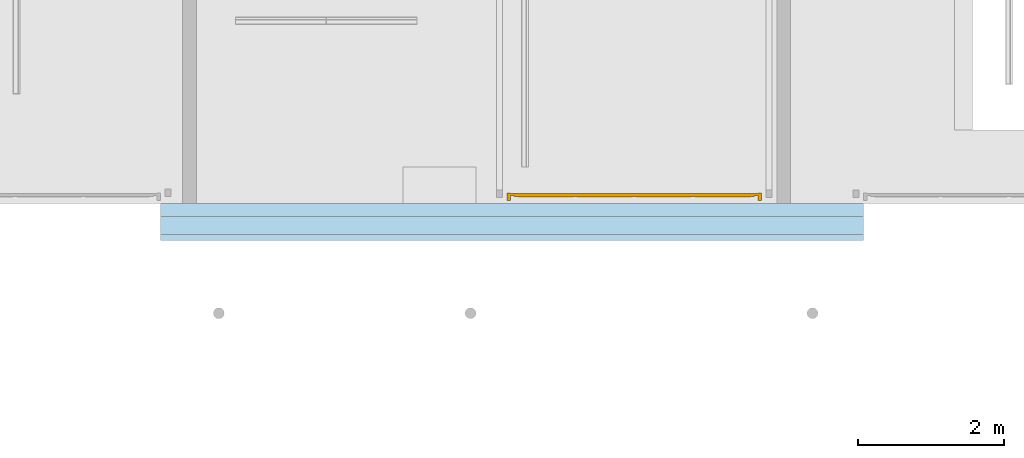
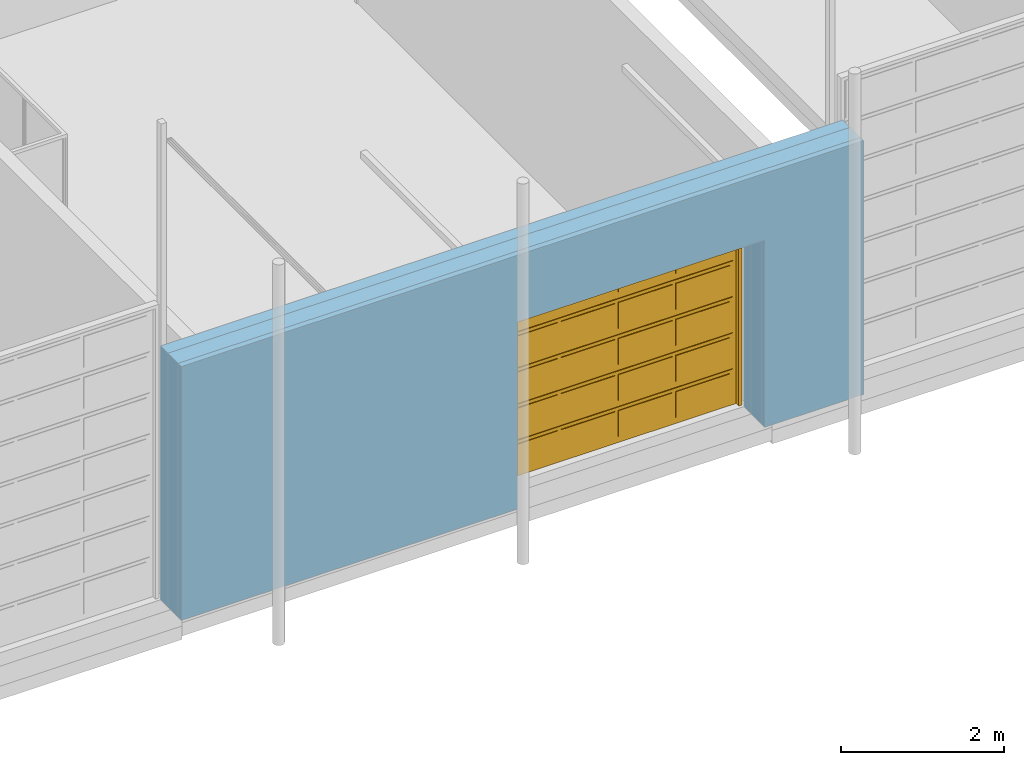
# One storey, part 50 of 112: 1 door, 1 opening, 1 element without a shape of its own, plus 3 elements that do not belong to this part.
"""IFC2X3 building model written with IfcOpenShell, lengths in millimetres."""

from ifc_helpers import new_model, entity, si_unit, converted_unit, derived_unit, money_unit, direction, frame, origin_with_axes, origin_2d_with_axis, place, context, subcontext, project, spatial, polyline, rectangle, outline, extrude, faceted_brep, material, type_object, element, fill, aggregate, save


model = new_model("IFC2X3")

# Units and contexts
model_context = context("Model", 3, precision=0.01, world=origin_with_axes(), true_north=direction((0.0, 1.0)))
body_context = subcontext(model_context, "Body", "Model", "MODEL_VIEW")
ifc_project = project(units=[si_unit("LENGTHUNIT", "METRE", prefix="MILLI"), si_unit("AREAUNIT", "SQUARE_METRE"), si_unit("VOLUMEUNIT", "CUBIC_METRE"), converted_unit("PLANEANGLEUNIT", "DEGREE", entity("IfcPlaneAngleMeasure", 0.0174532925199), si_unit("PLANEANGLEUNIT", "RADIAN"), dimensions=[0, 0, 0, 0, 0, 0, 0]), si_unit("SOLIDANGLEUNIT", "STERADIAN"), money_unit("EUR"), converted_unit("TIMEUNIT", "Year", entity("IfcTimeMeasure", 31556926.0), si_unit("TIMEUNIT", "SECOND"), dimensions=[0, 0, 1, 0, 0, 0, 0]), si_unit("MASSUNIT", "GRAM", prefix="KILO"), si_unit("THERMODYNAMICTEMPERATUREUNIT", "DEGREE_CELSIUS"), si_unit("LUMINOUSINTENSITYUNIT", "LUMEN"), si_unit("ENERGYUNIT", "JOULE", prefix="MEGA"), derived_unit("THERMALCONDUCTANCEUNIT", [(si_unit("POWERUNIT", "WATT"), 1), (si_unit("LENGTHUNIT", "METRE"), -1), (si_unit("THERMODYNAMICTEMPERATUREUNIT", "KELVIN"), -1)]), derived_unit("SPECIFICHEATCAPACITYUNIT", [(si_unit("ENERGYUNIT", "JOULE"), 1), (si_unit("MASSUNIT", "GRAM", prefix="KILO"), -1), (si_unit("THERMODYNAMICTEMPERATUREUNIT", "KELVIN"), -1)]), derived_unit("MASSDENSITYUNIT", [(si_unit("MASSUNIT", "GRAM", prefix="KILO"), 1), (si_unit("VOLUMEUNIT", "CUBIC_METRE"), -1)])], contexts=[model_context])

# Site, building, storey
site_placement = place(None, origin_with_axes())
site = spatial("IfcSite", under=ifc_project, at=site_placement, Name="Politse- ja Piirivalveameti ning Päästeameti ühishoone", CompositionType="ELEMENT")
building_placement = place(site_placement, origin_with_axes())
building = spatial("IfcBuilding", under=site, at=building_placement, Name="Politse- ja Piirivalveameti ning Päästeameti ühishoone", CompositionType="ELEMENT")
storey_placement = place(building_placement, origin_with_axes())
storey = spatial("IfcBuildingStorey", under=building, at=storey_placement, Name="Esimene korrus", CompositionType="ELEMENT", Elevation=0.0)

# Door
door_style = type_object("IfcDoorStyle", Name="Vertical Sliding Garage Door 23", ConstructionType="NOTDEFINED", OperationType="ROLLINGUP", ParameterTakesPrecedence=False, Sizeable=False)
wall_placement = place(storey_placement, frame((18099.6782559, 0.0, 0.0), z_axis=(0.0, 0.0, 1.0), x_axis=(1.0, 0.0, 0.0)))
opening_placement = place(wall_placement, frame((6510.24944031, 0.0, 0.0), z_axis=(0.0, 0.0, 1.0), x_axis=(1.0, 0.0, 0.0)))
door_placement = place(opening_placement, frame((-1750.0, 0.0, 0.0), z_axis=(0.0, 0.0, 1.0), x_axis=(1.0, 0.0, 0.0)))
door = element("IfcDoor", 1, at=door_placement, inside=storey, type_object=door_style, Name="TV-01", ObjectType="DOOR", OverallHeight=2800.0, OverallWidth=3500.0, context=body_context, shape_type="Brep", body=[
    faceted_brep([(0.0, 140.0, 0.0), (50.0, 140.0, 0.0), (50.0, 40.0, 0.0), (0.0, 40.0, 0.0), (0.0, 140.0, 2750.0), (50.0, 140.0, 2750.0), (50.0, 40.0, 2750.0), (0.0, 40.0, 2750.0)], [[[0, 1, 2, 3]], [[0, 4, 5, 1]], [[1, 5, 6, 2]], [[3, 2, 6, 7]], [[4, 0, 3, 7]], [[5, 4, 7, 6]]]),
    faceted_brep([(3500.0, 140.0, 0.0), (3500.0, 140.0, 2750.0), (3500.0, 40.0, 2750.0), (3500.0, 40.0, 0.0), (3450.0, 140.0, 0.0), (3450.0, 140.0, 2750.0), (3450.0, 40.0, 2750.0), (3450.0, 40.0, 0.0)], [[[0, 1, 2, 3]], [[0, 4, 5, 1]], [[1, 5, 6, 2]], [[3, 2, 6, 7]], [[4, 0, 3, 7]], [[5, 4, 7, 6]]]),
    faceted_brep([(0.0, 140.0, 2800.0), (0.0, 140.0, 2750.0), (0.0, 40.0, 2750.0), (0.0, 40.0, 2800.0), (3500.0, 140.0, 2800.0), (3500.0, 140.0, 2750.0), (3450.0, 140.0, 2750.0), (50.0, 140.0, 2750.0), (50.0, 40.0, 2750.0), (3450.0, 40.0, 2750.0), (3500.0, 40.0, 2750.0), (3500.0, 40.0, 2800.0)], [[[0, 1, 2, 3]], [[0, 4, 5, 6, 7, 1]], [[1, 7, 8, 2]], [[3, 2, 8, 9, 10, 11]], [[4, 0, 3, 11]], [[5, 4, 11, 10]], [[6, 5, 10, 9]], [[7, 6, 9, 8]]]),
    faceted_brep([(3450.0, 134.5, 0.0), (3450.0, 104.5, 0.0), (50.0, 104.5, 0.0), (50.0, 134.5, 0.0), (3450.0, 134.5, 2750.0), (3450.0, 104.5, 2750.0), (50.0, 104.5, 2750.0), (50.0, 134.5, 2750.0)], [[[0, 1, 2, 3]], [[4, 5, 1, 0]], [[1, 5, 6, 2]], [[3, 2, 6, 7]], [[0, 3, 7, 4]], [[7, 6, 5, 4]]]),
    faceted_brep([(100.0, 104.5, 50.0), (100.0, 104.5, 540.0), (3400.0, 104.5, 540.0), (3400.0, 104.5, 50.0), (100.0, 94.5, 50.0), (100.0, 94.5, 540.0), (3400.0, 94.5, 540.0), (3400.0, 94.5, 50.0)], [[[0, 1, 2, 3]], [[0, 4, 5, 1]], [[1, 5, 6, 2]], [[2, 6, 7, 3]], [[3, 7, 4, 0]], [[7, 6, 5, 4]]]),
    faceted_brep([(2587.5, 94.5, 100.0), (2587.5, 94.5, 490.0), (3350.0, 94.5, 490.0), (3350.0, 94.5, 100.0), (2587.5, 84.5, 100.0), (2587.5, 84.5, 490.0), (3350.0, 84.5, 490.0), (3350.0, 84.5, 100.0)], [[[0, 1, 2, 3]], [[0, 4, 5, 1]], [[1, 5, 6, 2]], [[2, 6, 7, 3]], [[3, 7, 4, 0]], [[7, 6, 5, 4]]]),
    faceted_brep([(1775.0, 94.5, 100.0), (1775.0, 94.5, 490.0), (2537.5, 94.5, 490.0), (2537.5, 94.5, 100.0), (1775.0, 84.5, 100.0), (1775.0, 84.5, 490.0), (2537.5, 84.5, 490.0), (2537.5, 84.5, 100.0)], [[[0, 1, 2, 3]], [[0, 4, 5, 1]], [[1, 5, 6, 2]], [[2, 6, 7, 3]], [[3, 7, 4, 0]], [[7, 6, 5, 4]]]),
    faceted_brep([(962.5, 94.5, 100.0), (962.5, 94.5, 490.0), (1725.0, 94.5, 490.0), (1725.0, 94.5, 100.0), (962.5, 84.5, 100.0), (962.5, 84.5, 490.0), (1725.0, 84.5, 490.0), (1725.0, 84.5, 100.0)], [[[0, 1, 2, 3]], [[0, 4, 5, 1]], [[1, 5, 6, 2]], [[2, 6, 7, 3]], [[3, 7, 4, 0]], [[7, 6, 5, 4]]]),
    faceted_brep([(150.0, 94.5, 100.0), (150.0, 94.5, 490.0), (912.5, 94.5, 490.0), (912.5, 94.5, 100.0), (150.0, 84.5, 100.0), (150.0, 84.5, 490.0), (912.5, 84.5, 490.0), (912.5, 84.5, 100.0)], [[[0, 1, 2, 3]], [[0, 4, 5, 1]], [[1, 5, 6, 2]], [[2, 6, 7, 3]], [[3, 7, 4, 0]], [[7, 6, 5, 4]]]),
    faceted_brep([(100.0, 104.5, 590.0), (100.0, 104.5, 1080.0), (3400.0, 104.5, 1080.0), (3400.0, 104.5, 590.0), (100.0, 94.5, 590.0), (100.0, 94.5, 1080.0), (3400.0, 94.5, 1080.0), (3400.0, 94.5, 590.0)], [[[0, 1, 2, 3]], [[0, 4, 5, 1]], [[1, 5, 6, 2]], [[2, 6, 7, 3]], [[3, 7, 4, 0]], [[7, 6, 5, 4]]]),
    faceted_brep([(2587.5, 94.5, 640.0), (2587.5, 94.5, 1030.0), (3350.0, 94.5, 1030.0), (3350.0, 94.5, 640.0), (2587.5, 84.5, 640.0), (2587.5, 84.5, 1030.0), (3350.0, 84.5, 1030.0), (3350.0, 84.5, 640.0)], [[[0, 1, 2, 3]], [[0, 4, 5, 1]], [[1, 5, 6, 2]], [[2, 6, 7, 3]], [[3, 7, 4, 0]], [[7, 6, 5, 4]]]),
    faceted_brep([(1775.0, 94.5, 640.0), (1775.0, 94.5, 1030.0), (2537.5, 94.5, 1030.0), (2537.5, 94.5, 640.0), (1775.0, 84.5, 640.0), (1775.0, 84.5, 1030.0), (2537.5, 84.5, 1030.0), (2537.5, 84.5, 640.0)], [[[0, 1, 2, 3]], [[0, 4, 5, 1]], [[1, 5, 6, 2]], [[2, 6, 7, 3]], [[3, 7, 4, 0]], [[7, 6, 5, 4]]]),
    faceted_brep([(962.5, 94.5, 640.0), (962.5, 94.5, 1030.0), (1725.0, 94.5, 1030.0), (1725.0, 94.5, 640.0), (962.5, 84.5, 640.0), (962.5, 84.5, 1030.0), (1725.0, 84.5, 1030.0), (1725.0, 84.5, 640.0)], [[[0, 1, 2, 3]], [[0, 4, 5, 1]], [[1, 5, 6, 2]], [[2, 6, 7, 3]], [[3, 7, 4, 0]], [[7, 6, 5, 4]]]),
    faceted_brep([(150.0, 94.5, 640.0), (150.0, 94.5, 1030.0), (912.5, 94.5, 1030.0), (912.5, 94.5, 640.0), (150.0, 84.5, 640.0), (150.0, 84.5, 1030.0), (912.5, 84.5, 1030.0), (912.5, 84.5, 640.0)], [[[0, 1, 2, 3]], [[0, 4, 5, 1]], [[1, 5, 6, 2]], [[2, 6, 7, 3]], [[3, 7, 4, 0]], [[7, 6, 5, 4]]]),
    faceted_brep([(100.0, 104.5, 1130.0), (100.0, 104.5, 1620.0), (3400.0, 104.5, 1620.0), (3400.0, 104.5, 1130.0), (100.0, 94.5, 1130.0), (100.0, 94.5, 1620.0), (3400.0, 94.5, 1620.0), (3400.0, 94.5, 1130.0)], [[[0, 1, 2, 3]], [[0, 4, 5, 1]], [[1, 5, 6, 2]], [[2, 6, 7, 3]], [[3, 7, 4, 0]], [[7, 6, 5, 4]]]),
    faceted_brep([(2587.5, 94.5, 1180.0), (2587.5, 94.5, 1570.0), (3350.0, 94.5, 1570.0), (3350.0, 94.5, 1180.0), (2587.5, 84.5, 1180.0), (2587.5, 84.5, 1570.0), (3350.0, 84.5, 1570.0), (3350.0, 84.5, 1180.0)], [[[0, 1, 2, 3]], [[0, 4, 5, 1]], [[1, 5, 6, 2]], [[2, 6, 7, 3]], [[3, 7, 4, 0]], [[7, 6, 5, 4]]]),
    faceted_brep([(1775.0, 94.5, 1180.0), (1775.0, 94.5, 1570.0), (2537.5, 94.5, 1570.0), (2537.5, 94.5, 1180.0), (1775.0, 84.5, 1180.0), (1775.0, 84.5, 1570.0), (2537.5, 84.5, 1570.0), (2537.5, 84.5, 1180.0)], [[[0, 1, 2, 3]], [[0, 4, 5, 1]], [[1, 5, 6, 2]], [[2, 6, 7, 3]], [[3, 7, 4, 0]], [[7, 6, 5, 4]]]),
    faceted_brep([(962.5, 94.5, 1180.0), (962.5, 94.5, 1570.0), (1725.0, 94.5, 1570.0), (1725.0, 94.5, 1180.0), (962.5, 84.5, 1180.0), (962.5, 84.5, 1570.0), (1725.0, 84.5, 1570.0), (1725.0, 84.5, 1180.0)], [[[0, 1, 2, 3]], [[0, 4, 5, 1]], [[1, 5, 6, 2]], [[2, 6, 7, 3]], [[3, 7, 4, 0]], [[7, 6, 5, 4]]]),
    faceted_brep([(150.0, 94.5, 1180.0), (150.0, 94.5, 1570.0), (912.5, 94.5, 1570.0), (912.5, 94.5, 1180.0), (150.0, 84.5, 1180.0), (150.0, 84.5, 1570.0), (912.5, 84.5, 1570.0), (912.5, 84.5, 1180.0)], [[[0, 1, 2, 3]], [[0, 4, 5, 1]], [[1, 5, 6, 2]], [[2, 6, 7, 3]], [[3, 7, 4, 0]], [[7, 6, 5, 4]]]),
    faceted_brep([(100.0, 104.5, 1670.0), (100.0, 104.5, 2160.0), (3400.0, 104.5, 2160.0), (3400.0, 104.5, 1670.0), (100.0, 94.5, 1670.0), (100.0, 94.5, 2160.0), (3400.0, 94.5, 2160.0), (3400.0, 94.5, 1670.0)], [[[0, 1, 2, 3]], [[0, 4, 5, 1]], [[1, 5, 6, 2]], [[2, 6, 7, 3]], [[3, 7, 4, 0]], [[7, 6, 5, 4]]]),
    faceted_brep([(2587.5, 94.5, 1720.0), (2587.5, 94.5, 2110.0), (3350.0, 94.5, 2110.0), (3350.0, 94.5, 1720.0), (2587.5, 84.5, 1720.0), (2587.5, 84.5, 2110.0), (3350.0, 84.5, 2110.0), (3350.0, 84.5, 1720.0)], [[[0, 1, 2, 3]], [[0, 4, 5, 1]], [[1, 5, 6, 2]], [[2, 6, 7, 3]], [[3, 7, 4, 0]], [[7, 6, 5, 4]]]),
    faceted_brep([(1775.0, 94.5, 1720.0), (1775.0, 94.5, 2110.0), (2537.5, 94.5, 2110.0), (2537.5, 94.5, 1720.0), (1775.0, 84.5, 1720.0), (1775.0, 84.5, 2110.0), (2537.5, 84.5, 2110.0), (2537.5, 84.5, 1720.0)], [[[0, 1, 2, 3]], [[0, 4, 5, 1]], [[1, 5, 6, 2]], [[2, 6, 7, 3]], [[3, 7, 4, 0]], [[7, 6, 5, 4]]]),
    faceted_brep([(962.5, 94.5, 1720.0), (962.5, 94.5, 2110.0), (1725.0, 94.5, 2110.0), (1725.0, 94.5, 1720.0), (962.5, 84.5, 1720.0), (962.5, 84.5, 2110.0), (1725.0, 84.5, 2110.0), (1725.0, 84.5, 1720.0)], [[[0, 1, 2, 3]], [[0, 4, 5, 1]], [[1, 5, 6, 2]], [[2, 6, 7, 3]], [[3, 7, 4, 0]], [[7, 6, 5, 4]]]),
    faceted_brep([(150.0, 94.5, 1720.0), (150.0, 94.5, 2110.0), (912.5, 94.5, 2110.0), (912.5, 94.5, 1720.0), (150.0, 84.5, 1720.0), (150.0, 84.5, 2110.0), (912.5, 84.5, 2110.0), (912.5, 84.5, 1720.0)], [[[0, 1, 2, 3]], [[0, 4, 5, 1]], [[1, 5, 6, 2]], [[2, 6, 7, 3]], [[3, 7, 4, 0]], [[7, 6, 5, 4]]]),
    faceted_brep([(100.0, 104.5, 2210.0), (100.0, 104.5, 2700.0), (3400.0, 104.5, 2700.0), (3400.0, 104.5, 2210.0), (100.0, 94.5, 2210.0), (100.0, 94.5, 2700.0), (3400.0, 94.5, 2700.0), (3400.0, 94.5, 2210.0)], [[[0, 1, 2, 3]], [[0, 4, 5, 1]], [[1, 5, 6, 2]], [[2, 6, 7, 3]], [[3, 7, 4, 0]], [[7, 6, 5, 4]]]),
    faceted_brep([(2587.5, 94.5, 2260.0), (2587.5, 94.5, 2650.0), (3350.0, 94.5, 2650.0), (3350.0, 94.5, 2260.0), (2587.5, 84.5, 2260.0), (2587.5, 84.5, 2650.0), (3350.0, 84.5, 2650.0), (3350.0, 84.5, 2260.0)], [[[0, 1, 2, 3]], [[0, 4, 5, 1]], [[1, 5, 6, 2]], [[2, 6, 7, 3]], [[3, 7, 4, 0]], [[7, 6, 5, 4]]]),
    faceted_brep([(1775.0, 94.5, 2260.0), (1775.0, 94.5, 2650.0), (2537.5, 94.5, 2650.0), (2537.5, 94.5, 2260.0), (1775.0, 84.5, 2260.0), (1775.0, 84.5, 2650.0), (2537.5, 84.5, 2650.0), (2537.5, 84.5, 2260.0)], [[[0, 1, 2, 3]], [[0, 4, 5, 1]], [[1, 5, 6, 2]], [[2, 6, 7, 3]], [[3, 7, 4, 0]], [[7, 6, 5, 4]]]),
    faceted_brep([(962.5, 94.5, 2260.0), (962.5, 94.5, 2650.0), (1725.0, 94.5, 2650.0), (1725.0, 94.5, 2260.0), (962.5, 84.5, 2260.0), (962.5, 84.5, 2650.0), (1725.0, 84.5, 2650.0), (1725.0, 84.5, 2260.0)], [[[0, 1, 2, 3]], [[0, 4, 5, 1]], [[1, 5, 6, 2]], [[2, 6, 7, 3]], [[3, 7, 4, 0]], [[7, 6, 5, 4]]]),
    faceted_brep([(150.0, 94.5, 2260.0), (150.0, 94.5, 2650.0), (912.5, 94.5, 2650.0), (912.5, 94.5, 2260.0), (150.0, 84.5, 2260.0), (150.0, 84.5, 2650.0), (912.5, 84.5, 2650.0), (912.5, 84.5, 2260.0)], [[[0, 1, 2, 3]], [[0, 4, 5, 1]], [[1, 5, 6, 2]], [[2, 6, 7, 3]], [[3, 7, 4, 0]], [[7, 6, 5, 4]]]),
])

# Wall, opening
wall_type = type_object("IfcWallType", Name="VS-01_välissein 510", PredefinedType="NOTDEFINED")
wall = element("IfcWall", 2, at=wall_placement, inside=storey, type_object=wall_type, Name="VS-01")
opening = element("IfcOpeningElement", 3, at=opening_placement, cuts=wall, Name="TV-01", context=body_context, shape_type="SweptSolid", body=[
    extrude(rectangle(XDim=3500.0, YDim=2800.0, at=origin_2d_with_axis()), frame((0.0, 40.0, 1400.0), z_axis=(0.0, 1.0, 0.0), x_axis=(1.0, 0.0, 0.0)), (0.0, 0.0, -1.0), 1060.0),
    extrude(outline(polyline([(-1750.0, 5600.0), (-1750.0, 2800.0), (1750.0, 2800.0), (1750.0, 5600.0), (-1750.0, 5600.0)])), frame((0.0, 135.0, 0.0), z_axis=(0.0, -1.0, 0.0), x_axis=(1.0, 0.0, 0.0)), (0.0, 0.0, 1.0), 45.0),
    extrude(rectangle(XDim=3500.0, YDim=2800.0, at=origin_2d_with_axis()), frame((0.0, 40.0, 1400.0), z_axis=(0.0, -1.0, 0.0), x_axis=(1.0, 0.0, 0.0)), (0.0, 0.0, -1.0), 550.0),
])

fill(opening, door)

# Building element part
ifc_material_1 = material(Name="KON-04_Betoon - Konstuktsioon")
building_element_part_1_placement = place(wall_placement, origin_with_axes())
building_element_part_1 = element("IfcBuildingElementPart", 4, at=building_element_part_1_placement, material=ifc_material_1, Name="KON-04_Betoon - Konstuktsioon", context=body_context, shape_type="SweptSolid", body=[
    extrude(outline(polyline([(0.0, -180.0), (9660.02721024, -180.0), (9660.02721024, 0.0), (0.0, 0.0), (0.0, -180.0)])), origin_with_axes(), (0.0, 0.0, 1.0), 3800.0),
])

ifc_material_2 = material(Name="SOJ-06_Soojustus - Plastik Kõva")
building_element_part_2_placement = place(wall_placement, origin_with_axes())
building_element_part_2 = element("IfcBuildingElementPart", 5, at=building_element_part_2_placement, material=ifc_material_2, Name="SOJ-06_Soojustus - Plastik Kõva", context=body_context, shape_type="SweptSolid", body=[
    extrude(outline(polyline([(0.0, -430.0), (9660.02721024, -430.0), (9660.02721024, -180.0), (0.0, -180.0), (0.0, -430.0)])), origin_with_axes(), (0.0, 0.0, 1.0), 3800.0),
])

building_element_part_3_placement = place(wall_placement, origin_with_axes())
building_element_part_3 = element("IfcBuildingElementPart", 6, at=building_element_part_3_placement, material=ifc_material_1, Name="KON-04_Betoon - Konstuktsioon", context=body_context, shape_type="SweptSolid", body=[
    extrude(outline(polyline([(0.0, -510.0), (9660.02721024, -510.0), (9660.02721024, -430.0), (0.0, -430.0), (0.0, -510.0)])), origin_with_axes(), (0.0, 0.0, 1.0), 3800.0),
])

aggregate(wall, [building_element_part_1, building_element_part_2, building_element_part_3])

save(model, "model.ifc")
